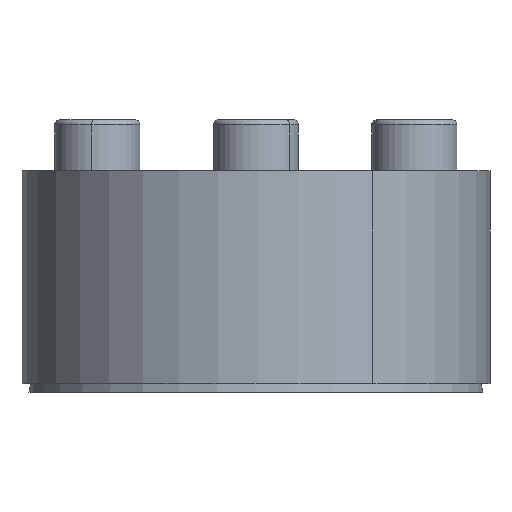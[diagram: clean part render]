
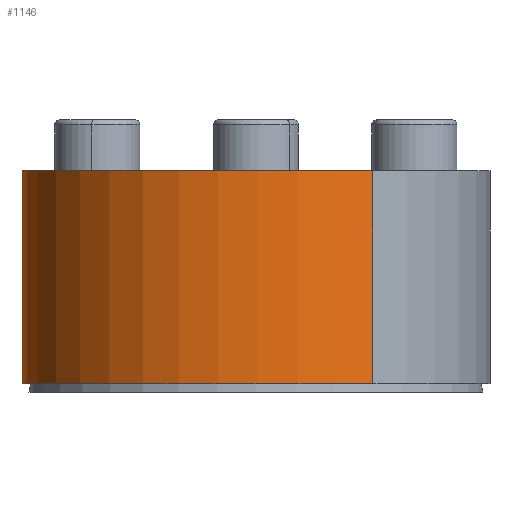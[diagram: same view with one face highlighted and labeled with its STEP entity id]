
A CAD part, front view. The second image highlights one B-rep face of the part: STEP entity #1146.
In plain terms, the highlighted cylindrical face has radius 27.5 mm (diameter 55 mm), a partial arc.
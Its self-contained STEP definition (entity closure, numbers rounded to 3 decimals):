
#492 = CIRCLE ( 'NONE', #7688, 27.5 ) ;
#535 = DIRECTION ( 'NONE',  ( -0.5, 0.866, 0. ) ) ;
#705 = EDGE_LOOP ( 'NONE', ( #2790, #8128, #9415, #6704 ) ) ;
#815 = VECTOR ( 'NONE', #5529, 1000. ) ;
#1130 = LINE ( 'NONE', #2946, #6982 ) ;
#1146 = ADVANCED_FACE ( 'NONE', ( #7107 ), #6169, .T. ) ;
#1267 = DIRECTION ( 'NONE',  ( 0., 0., 1. ) ) ;
#1867 = EDGE_CURVE ( 'NONE', #5320, #9320, #492, .T. ) ;
#2274 = CARTESIAN_POINT ( 'NONE',  ( 0., 0., 26.024 ) ) ;
#2488 = CARTESIAN_POINT ( 'NONE',  ( 0., 0., 1.024 ) ) ;
#2741 = CARTESIAN_POINT ( 'NONE',  ( -27.482, -1., 1.024 ) ) ;
#2790 = ORIENTED_EDGE ( 'NONE', *, *, #8895, .F. ) ;
#2946 = CARTESIAN_POINT ( 'NONE',  ( 13.75, -23.816, 1.024 ) ) ;
#3035 = CARTESIAN_POINT ( 'NONE',  ( 0., 0., 1.024 ) ) ;
#3067 = DIRECTION ( 'NONE',  ( 0.5, -0.866, 0. ) ) ;
#3768 = VERTEX_POINT ( 'NONE', #8763 ) ;
#3811 = DIRECTION ( 'NONE',  ( 0.5, -0.866, 0. ) ) ;
#4354 = CARTESIAN_POINT ( 'NONE',  ( -27.482, -1., 26.024 ) ) ;
#4855 = CIRCLE ( 'NONE', #5222, 27.5 ) ;
#4932 = LINE ( 'NONE', #8486, #815 ) ;
#5222 = AXIS2_PLACEMENT_3D ( 'NONE', #3035, #8337, #3811 ) ;
#5320 = VERTEX_POINT ( 'NONE', #6125 ) ;
#5529 = DIRECTION ( 'NONE',  ( 0., 0., -1. ) ) ;
#6125 = CARTESIAN_POINT ( 'NONE',  ( 13.75, -23.816, 26.024 ) ) ;
#6169 = CYLINDRICAL_SURFACE ( 'NONE', #7093, 27.5 ) ;
#6704 = ORIENTED_EDGE ( 'NONE', *, *, #7174, .T. ) ;
#6982 = VECTOR ( 'NONE', #8253, 1000. ) ;
#7093 = AXIS2_PLACEMENT_3D ( 'NONE', #2488, #1267, #535 ) ;
#7107 = FACE_OUTER_BOUND ( 'NONE', #705, .T. ) ;
#7174 = EDGE_CURVE ( 'NONE', #9320, #7452, #4932, .T. ) ;
#7452 = VERTEX_POINT ( 'NONE', #2741 ) ;
#7617 = DIRECTION ( 'NONE',  ( 0., 0., -1. ) ) ;
#7688 = AXIS2_PLACEMENT_3D ( 'NONE', #2274, #7617, #3067 ) ;
#8128 = ORIENTED_EDGE ( 'NONE', *, *, #9340, .T. ) ;
#8253 = DIRECTION ( 'NONE',  ( 0., 0., 1. ) ) ;
#8337 = DIRECTION ( 'NONE',  ( 0., 0., -1. ) ) ;
#8486 = CARTESIAN_POINT ( 'NONE',  ( -27.482, -1., 1.024 ) ) ;
#8763 = CARTESIAN_POINT ( 'NONE',  ( 13.75, -23.816, 1.024 ) ) ;
#8895 = EDGE_CURVE ( 'NONE', #3768, #7452, #4855, .T. ) ;
#9320 = VERTEX_POINT ( 'NONE', #4354 ) ;
#9340 = EDGE_CURVE ( 'NONE', #3768, #5320, #1130, .T. ) ;
#9415 = ORIENTED_EDGE ( 'NONE', *, *, #1867, .T. ) ;
